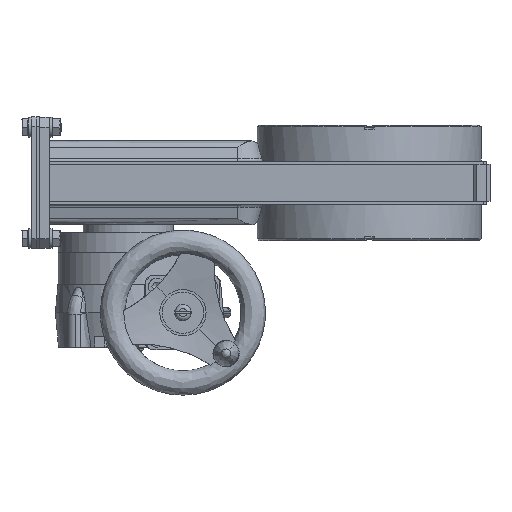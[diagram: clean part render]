
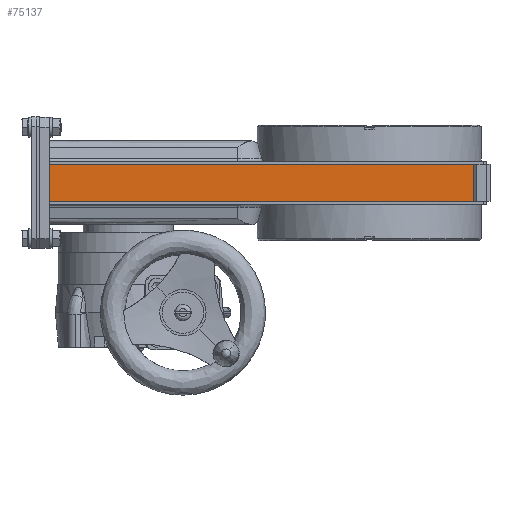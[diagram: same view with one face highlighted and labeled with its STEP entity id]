
A CAD part, left-side view. The second image highlights one B-rep face of the part: STEP entity #75137.
In plain terms, the highlighted free-form (B-spline) face has degree [1, 1] with [2, 2] control points.
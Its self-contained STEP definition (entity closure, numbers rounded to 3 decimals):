
#74947=CARTESIAN_POINT('V9',(0.,22.45,0.0)
   );
#74948=VERTEX_POINT('V9',#74947);
#74954=CARTESIAN_POINT('V7',(0.0,0.0,0.0));
#74955=VERTEX_POINT('V7',#74954);
#74956=CARTESIAN_POINT('E4',(0.0,0.0,0.0));
#74957=CARTESIAN_POINT('E4',(0.,22.45,0.0)
   );
#74958=QUASI_UNIFORM_CURVE('E4',1,(#74956,#74957),.POLYLINE_FORM.,
   .F.,.U.);
#74959=EDGE_CURVE('E4',#74955,#74948,#74958,.T.);
#75012=CARTESIAN_POINT('V8',(0.0,0.0,257.0));
#75013=VERTEX_POINT('V8',#75012);
#75019=CARTESIAN_POINT('V10',(0.,22.45,257.0)
   );
#75020=VERTEX_POINT('V10',#75019);
#75021=CARTESIAN_POINT('E17',(0.,22.45,257.0)
   );
#75022=CARTESIAN_POINT('E17',(0.0,0.0,257.0));
#75023=QUASI_UNIFORM_CURVE('E17',1,(#75021,#75022),.POLYLINE_FORM.,
   .F.,.U.);
#75024=EDGE_CURVE('E17',#75020,#75013,#75023,.T.);
#75112=CARTESIAN_POINT('E24',(0.0,0.0,257.0));
#75113=CARTESIAN_POINT('E24',(0.0,0.0,0.0));
#75114=QUASI_UNIFORM_CURVE('E24',1,(#75112,#75113),.POLYLINE_FORM.,
   .F.,.U.);
#75115=EDGE_CURVE('E24',#75013,#74955,#75114,.T.);
#75122=CARTESIAN_POINT('F6',(0.,22.45,0.0)
   );
#75123=CARTESIAN_POINT('F6',(0.0,0.0,0.0));
#75124=CARTESIAN_POINT('F6',(0.,22.45,257.0)
   );
#75125=CARTESIAN_POINT('F6',(0.0,0.0,257.0));
#75126=B_SPLINE_SURFACE_WITH_KNOTS('F6',1,1,((#75122,#75124),(
   #75123,#75125)),.PLANE_SURF.,.F.,.F.,.U.,(2,2),(2,2),(0.0,1.0),
   (0.0,11.448),.UNSPECIFIED.);
#75127=ORIENTED_EDGE('E4',*,*,#74959,.T.);
#75128=CARTESIAN_POINT('E25',(0.,22.45,257.0)
   );
#75129=CARTESIAN_POINT('E25',(0.,22.45,0.0)
   );
#75130=QUASI_UNIFORM_CURVE('E25',1,(#75128,#75129),.POLYLINE_FORM.,
   .F.,.U.);
#75131=EDGE_CURVE('E25',#75020,#74948,#75130,.T.);
#75132=ORIENTED_EDGE('E25',*,*,#75131,.F.);
#75133=ORIENTED_EDGE('E17',*,*,#75024,.T.);
#75134=ORIENTED_EDGE('E24',*,*,#75115,.T.);
#75135=EDGE_LOOP('F6',(#75127,#75132,#75133,#75134));
#75136=FACE_OUTER_BOUND('F6',#75135,.F.);
#75137=ADVANCED_FACE('F6',(#75136),#75126,.T.);
